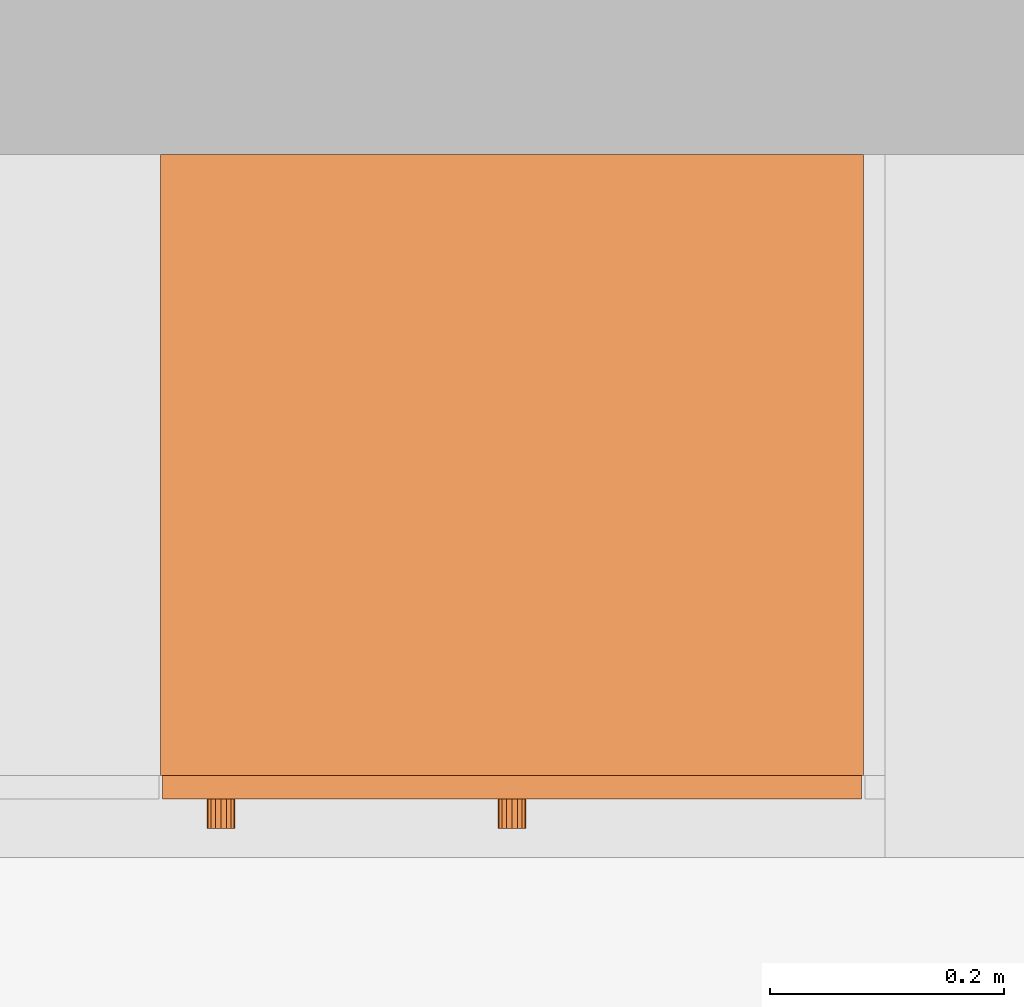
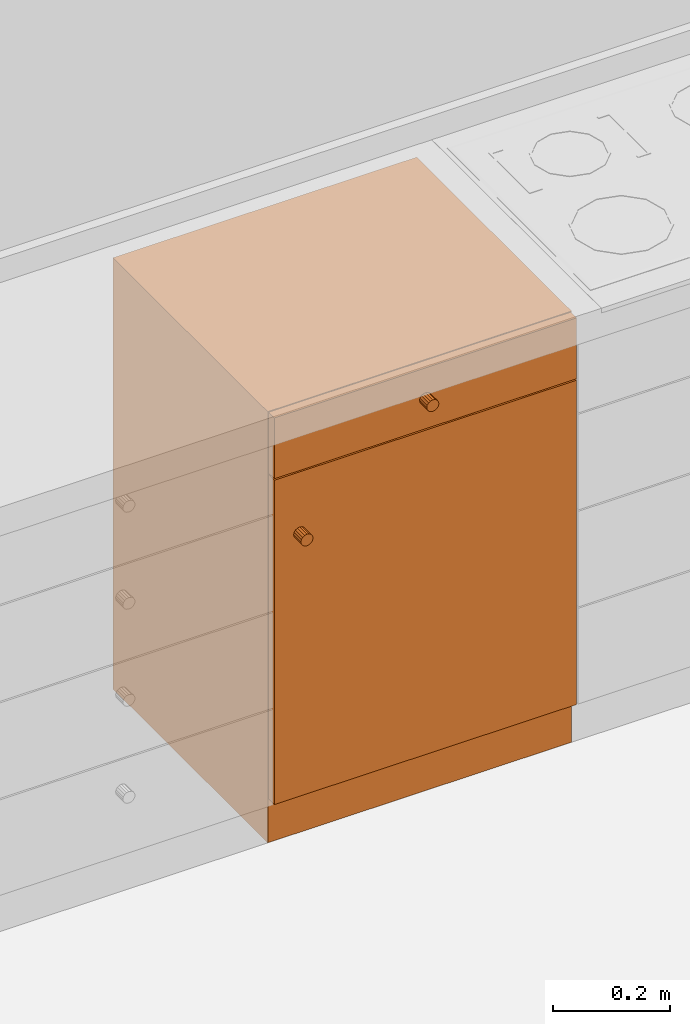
# One storey, part 19 of 28: 1 proxy.
"""IFC4 building model written with IfcOpenShell, lengths in metres."""

from ifc_helpers import new_model, entity, si_unit, converted_unit, derived_unit, direction, frame, origin_with_axes, place, context, subcontext, project, spatial, triangles, type_object, element, save


model = new_model("IFC4")

# Units and contexts
model_context = context("Model", 3, precision=1e-05, world=origin_with_axes(), true_north=direction((-0.526213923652, 0.850352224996)))
body_context = subcontext(model_context, "Body", "Model", "MODEL_VIEW")
ifc_project = project(units=[si_unit("LENGTHUNIT", "METRE"), si_unit("AREAUNIT", "SQUARE_METRE"), si_unit("VOLUMEUNIT", "CUBIC_METRE"), converted_unit("PLANEANGLEUNIT", "DEGREE", entity("IfcPlaneAngleMeasure", 0.0174532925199), si_unit("PLANEANGLEUNIT", "RADIAN"), dimensions=[0, 0, 0, 0, 0, 0, 0]), si_unit("SOLIDANGLEUNIT", "STERADIAN"), converted_unit("TIMEUNIT", "Year", entity("IfcTimeMeasure", 31556926.0), si_unit("TIMEUNIT", "SECOND"), dimensions=[0, 0, 1, 0, 0, 0, 0]), si_unit("MASSUNIT", "GRAM", prefix="KILO"), si_unit("THERMODYNAMICTEMPERATUREUNIT", "DEGREE_CELSIUS"), si_unit("LUMINOUSINTENSITYUNIT", "LUMEN"), si_unit("ENERGYUNIT", "JOULE", prefix="MEGA"), derived_unit("THERMALCONDUCTANCEUNIT", [(si_unit("POWERUNIT", "WATT"), 1), (si_unit("LENGTHUNIT", "METRE"), -1), (si_unit("THERMODYNAMICTEMPERATUREUNIT", "KELVIN"), -1)]), derived_unit("SPECIFICHEATCAPACITYUNIT", [(si_unit("ENERGYUNIT", "JOULE"), 1), (si_unit("MASSUNIT", "GRAM", prefix="KILO"), -1), (si_unit("THERMODYNAMICTEMPERATUREUNIT", "KELVIN"), -1)]), derived_unit("MASSDENSITYUNIT", [(si_unit("MASSUNIT", "GRAM", prefix="KILO"), 1), (si_unit("VOLUMEUNIT", "CUBIC_METRE"), -1)])], contexts=[model_context])

# Site, building, storey, space
site_placement = place(None, origin_with_axes())
site = spatial("IfcSite", under=ifc_project, at=site_placement, Name="Gelände", CompositionType="ELEMENT")
building_placement = place(site_placement, origin_with_axes())
building = spatial("IfcBuilding", under=site, at=building_placement, Name="Haus vom Nikolaus", CompositionType="ELEMENT")
storey_placement = place(building_placement, origin_with_axes())
storey = spatial("IfcBuildingStorey", under=building, at=storey_placement, Name="EG", CompositionType="ELEMENT", Elevation=0.0)
space_placement = place(storey_placement, frame((-3.09538684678, 5.36483190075, 0.0), z_axis=(0.0, 0.0, 1.0), x_axis=(1.0, 0.0, 0.0)))
space = spatial("IfcSpace", under=storey, at=space_placement, Name="EG", CompositionType="ELEMENT")

# Proxy
building_element_proxy_type = type_object("IfcBuildingElementProxyType", Name="Unterschrank Einzeltür mit Spüle 22", PredefinedType="NOTDEFINED")
proxy_placement = place(space_placement, frame((11.7603844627, 1.27500017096, 0.2), z_axis=(0.0, 0.0, 1.0), x_axis=(1.0, 0.0, 0.0)))
element("IfcBuildingElementProxy", 1, at=proxy_placement, inside=space, type_object=building_element_proxy_type, Name="Küche-004", PredefinedType="NOTDEFINED", context=body_context, shape_type="Tessellation", body=[
    triangles([(-0.58, 0.07, 0.78), (-0.02, 0.07, 0.76), (-0.02, 0.07, 0.78), (-0.58, 0.07, 0.76), (-0.02, 0.58, 0.76), (-0.02, 0.58, 0.78), (-0.58, 0.58, 0.78), (-0.58, 0.58, 0.76)], [[1, 2, 3], [1, 4, 2], [3, 5, 6], [3, 2, 5], [7, 3, 6], [7, 1, 3], [7, 4, 1], [7, 8, 4], [8, 2, 4], [8, 5, 2], [6, 8, 7], [6, 5, 8]], closed=True),
    triangles([(-0.6, 0.07, 0.09), (0.0, 0.07, 0.0), (0.0, 0.07, 0.09), (-0.6, 0.07, 0.0), (0.0, 0.6, 0.0), (0.0, 0.6, 0.09), (-0.6, 0.6, 0.09), (-0.6, 0.6, 0.0)], [[1, 2, 3], [1, 4, 2], [3, 5, 6], [3, 2, 5], [7, 3, 6], [7, 1, 3], [7, 4, 1], [7, 8, 4], [8, 2, 4], [8, 5, 2], [6, 8, 7], [6, 5, 8]], closed=True),
    triangles([(-0.02, 0.07, 0.9), (0.0, 0.07, 0.88), (0.0, 0.07, 0.9), (-0.02, 0.07, 0.88), (0.0, 0.6, 0.88), (0.0, 0.6, 0.9), (-0.02, 0.6, 0.9), (-0.58, 0.07, 0.9), (-0.58, 0.6, 0.9), (-0.6, 0.07, 0.9), (-0.6, 0.6, 0.9), (-0.58, 0.07, 0.88), (-0.02, 0.6, 0.88), (-0.58, 0.6, 0.88), (-0.6, 0.6, 0.88), (-0.6, 0.07, 0.88)], [[1, 2, 3], [1, 4, 2], [3, 5, 6], [3, 2, 5], [1, 3, 7], [8, 7, 9], [7, 3, 6], [10, 9, 11], [8, 9, 10], [1, 7, 8], [8, 4, 1], [8, 12, 4], [5, 2, 13], [14, 12, 15], [12, 14, 4], [15, 12, 16], [4, 13, 2], [13, 4, 14], [6, 13, 7], [6, 5, 13], [7, 14, 9], [7, 13, 14], [9, 15, 11], [9, 14, 15], [11, 16, 10], [11, 15, 16], [10, 12, 8], [10, 16, 12]], closed=True),
    triangles([(-0.02, 0.07, 0.11), (0.0, 0.07, 0.09), (0.0, 0.07, 0.11), (-0.02, 0.07, 0.09), (0.0, 0.6, 0.09), (0.0, 0.6, 0.11), (-0.02, 0.6, 0.11), (-0.58, 0.07, 0.11), (-0.58, 0.6, 0.11), (-0.6, 0.07, 0.11), (-0.6, 0.6, 0.11), (-0.58, 0.07, 0.09), (-0.02, 0.6, 0.09), (-0.58, 0.6, 0.09), (-0.6, 0.6, 0.09), (-0.6, 0.07, 0.09)], [[1, 2, 3], [1, 4, 2], [3, 5, 6], [3, 2, 5], [1, 3, 7], [8, 7, 9], [7, 3, 6], [10, 9, 11], [8, 9, 10], [1, 7, 8], [8, 4, 1], [8, 12, 4], [5, 2, 13], [14, 12, 15], [12, 14, 4], [15, 12, 16], [4, 13, 2], [13, 4, 14], [6, 13, 7], [6, 5, 13], [7, 14, 9], [7, 13, 14], [9, 15, 11], [9, 14, 15], [11, 16, 10], [11, 15, 16], [10, 12, 8], [10, 16, 12]], closed=True),
    triangles([(-0.02, 0.07, 0.88), (0.0, 0.07, 0.11), (0.0, 0.07, 0.88), (-0.02, 0.07, 0.11), (0.0, 0.6, 0.11), (0.0, 0.6, 0.88), (-0.02, 0.58, 0.88), (-0.58, 0.58, 0.88), (-0.6, 0.07, 0.88), (-0.58, 0.07, 0.88), (-0.6, 0.6, 0.88), (-0.02, 0.58, 0.11), (-0.6, 0.6, 0.11), (-0.58, 0.58, 0.11), (-0.6, 0.07, 0.11), (-0.58, 0.07, 0.11)], [[1, 2, 3], [1, 4, 2], [3, 5, 6], [3, 2, 5], [1, 3, 7], [8, 9, 10], [8, 6, 11], [9, 8, 11], [7, 3, 6], [8, 7, 6], [7, 4, 1], [7, 12, 4], [5, 2, 12], [13, 5, 12], [12, 2, 4], [13, 12, 14], [15, 13, 14], [15, 14, 16], [6, 13, 11], [6, 5, 13], [11, 15, 9], [11, 13, 15], [9, 16, 10], [9, 15, 16], [10, 14, 8], [10, 16, 14], [8, 12, 7], [8, 14, 12]], closed=True),
    triangles([(-0.58, 0.58, 0.43), (-0.58, 0.07, 0.41), (-0.58, 0.07, 0.43), (-0.58, 0.58, 0.41), (-0.02, 0.07, 0.41), (-0.02, 0.07, 0.43), (-0.02, 0.58, 0.43), (-0.02, 0.58, 0.41)], [[1, 2, 3], [1, 4, 2], [3, 5, 6], [3, 2, 5], [7, 3, 6], [7, 1, 3], [7, 4, 1], [7, 8, 4], [8, 2, 4], [8, 5, 2], [6, 8, 7], [6, 5, 8]], closed=True),
    triangles([(-0.5985, 0.05, 0.7715), (-0.0015, 0.07, 0.7715), (-0.0015, 0.05, 0.7715), (-0.5985, 0.07, 0.7715), (-0.0015, 0.05, 0.8985), (-0.0015, 0.07, 0.8985), (-0.5985, 0.05, 0.8985), (-0.5985, 0.07, 0.8985)], [[1, 2, 3], [1, 4, 2], [2, 5, 3], [5, 2, 6], [7, 3, 5], [7, 1, 3], [7, 4, 1], [7, 8, 4], [8, 2, 4], [8, 6, 2], [5, 8, 7], [5, 6, 8]], closed=True),
    triangles([(-0.295407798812, 0.05, 0.84608655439), (-0.304592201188, 0.05, 0.82391344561), (-0.304592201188, 0.05, 0.84608655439), (-0.31108655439, 0.05, 0.830407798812), (-0.308485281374, 0.05, 0.826514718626), (-0.295407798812, 0.05, 0.82391344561), (-0.3, 0.05, 0.823), (-0.312, 0.05, 0.835), (-0.31108655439, 0.05, 0.839592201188), (-0.308485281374, 0.05, 0.843485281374), (-0.3, 0.05, 0.847), (-0.28891344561, 0.05, 0.839592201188), (-0.291514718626, 0.05, 0.843485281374), (-0.291514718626, 0.05, 0.826514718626), (-0.288, 0.05, 0.835), (-0.28891344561, 0.05, 0.830407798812), (-0.3, 0.025, 0.823), (-0.295407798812, 0.025, 0.82391344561), (-0.304592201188, 0.025, 0.82391344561), (-0.308485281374, 0.025, 0.826514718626), (-0.31108655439, 0.025, 0.830407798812), (-0.312, 0.025, 0.835), (-0.31108655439, 0.025, 0.839592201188), (-0.308485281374, 0.025, 0.843485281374), (-0.304592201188, 0.025, 0.84608655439), (-0.3, 0.025, 0.847), (-0.295407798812, 0.025, 0.84608655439), (-0.291514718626, 0.025, 0.843485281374), (-0.28891344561, 0.025, 0.839592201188), (-0.288, 0.025, 0.835), (-0.28891344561, 0.025, 0.830407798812), (-0.291514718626, 0.025, 0.826514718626)], [[1, 2, 3], [4, 2, 5], [2, 6, 7], [3, 4, 8], [3, 9, 10], [9, 3, 8], [1, 3, 11], [4, 3, 2], [2, 1, 6], [12, 1, 13], [14, 1, 15], [15, 1, 12], [14, 15, 16], [1, 14, 6], [17, 6, 18], [17, 7, 6], [2, 17, 19], [17, 2, 7], [5, 19, 20], [19, 5, 2], [21, 5, 20], [21, 4, 5], [22, 4, 21], [22, 8, 4], [23, 8, 22], [23, 9, 8], [24, 9, 23], [24, 10, 9], [25, 10, 24], [25, 3, 10], [26, 3, 25], [26, 11, 3], [27, 11, 26], [27, 1, 11], [28, 1, 27], [28, 13, 1], [29, 13, 28], [29, 12, 13], [30, 12, 29], [30, 15, 12], [31, 15, 30], [31, 16, 15], [32, 16, 31], [32, 14, 16], [18, 14, 32], [18, 6, 14], [19, 30, 25], [19, 32, 30], [30, 32, 31], [28, 30, 29], [27, 30, 28], [25, 30, 27], [23, 25, 24], [25, 27, 26], [19, 25, 23], [21, 23, 22], [19, 21, 20], [19, 23, 21], [32, 19, 18], [17, 18, 19]], closed=True),
    triangles([(-0.5985, 0.05, 0.0915), (-0.0015, 0.07, 0.0915), (-0.0015, 0.05, 0.0915), (-0.5985, 0.07, 0.0915), (-0.0015, 0.07, 0.7685), (-0.0015, 0.05, 0.7685), (-0.5985, 0.05, 0.7685), (-0.5985, 0.07, 0.7685)], [[1, 2, 3], [1, 4, 2], [3, 5, 6], [3, 2, 5], [7, 3, 6], [7, 1, 3], [7, 4, 1], [7, 8, 4], [8, 2, 4], [8, 5, 2], [6, 8, 7], [6, 5, 8]], closed=True),
    triangles([(-0.53741344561, 0.05, 0.636907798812), (-0.540014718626, 0.05, 0.649985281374), (-0.53741344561, 0.05, 0.646092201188), (-0.556985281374, 0.05, 0.633014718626), (-0.556985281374, 0.05, 0.649985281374), (-0.5605, 0.05, 0.6415), (-0.55958655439, 0.05, 0.646092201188), (-0.5485, 0.05, 0.6535), (-0.553092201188, 0.05, 0.65258655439), (-0.543907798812, 0.05, 0.65258655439), (-0.5365, 0.05, 0.6415), (-0.553092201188, 0.05, 0.63041344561), (-0.540014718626, 0.05, 0.633014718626), (-0.543907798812, 0.05, 0.63041344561), (-0.5485, 0.05, 0.6295), (-0.55958655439, 0.05, 0.636907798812), (-0.5605, 0.025, 0.6415), (-0.55958655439, 0.025, 0.636907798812), (-0.55958655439, 0.025, 0.646092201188), (-0.556985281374, 0.025, 0.649985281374), (-0.553092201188, 0.025, 0.65258655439), (-0.5485, 0.025, 0.6535), (-0.543907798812, 0.025, 0.65258655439), (-0.540014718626, 0.025, 0.649985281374), (-0.53741344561, 0.025, 0.646092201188), (-0.5365, 0.025, 0.6415), (-0.53741344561, 0.025, 0.636907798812), (-0.540014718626, 0.025, 0.633014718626), (-0.543907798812, 0.025, 0.63041344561), (-0.5485, 0.025, 0.6295), (-0.553092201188, 0.025, 0.63041344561), (-0.556985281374, 0.025, 0.633014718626)], [[1, 2, 3], [1, 4, 5], [4, 6, 7], [8, 5, 9], [2, 5, 8], [2, 8, 10], [1, 3, 11], [1, 5, 2], [4, 1, 12], [12, 1, 13], [12, 14, 15], [12, 13, 14], [5, 4, 7], [6, 4, 16], [17, 16, 18], [17, 6, 16], [19, 6, 17], [19, 7, 6], [20, 7, 19], [20, 5, 7], [21, 5, 20], [21, 9, 5], [22, 9, 21], [22, 8, 9], [23, 8, 22], [23, 10, 8], [24, 10, 23], [24, 2, 10], [25, 2, 24], [25, 3, 2], [26, 3, 25], [26, 11, 3], [27, 11, 26], [27, 1, 11], [28, 1, 27], [28, 13, 1], [29, 13, 28], [29, 14, 13], [30, 14, 29], [30, 15, 14], [31, 15, 30], [31, 12, 15], [32, 12, 31], [32, 4, 12], [18, 4, 32], [18, 16, 4], [28, 24, 31], [29, 31, 30], [31, 18, 32], [28, 31, 29], [24, 27, 26], [24, 26, 25], [21, 24, 22], [27, 24, 28], [22, 24, 23], [20, 24, 21], [19, 31, 20], [24, 20, 31], [31, 19, 18], [17, 18, 19]], closed=True),
])

save(model, "model.ifc")
